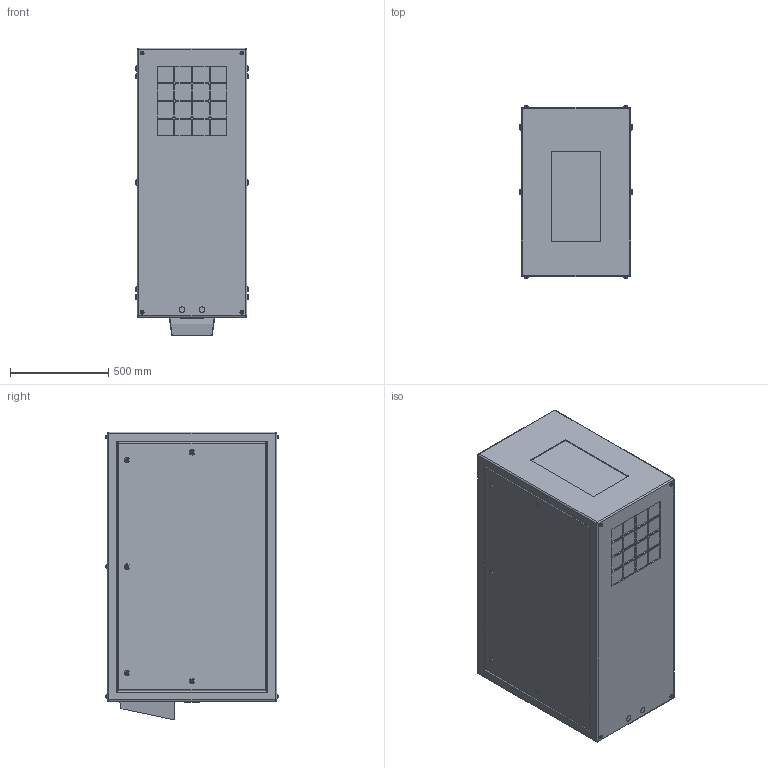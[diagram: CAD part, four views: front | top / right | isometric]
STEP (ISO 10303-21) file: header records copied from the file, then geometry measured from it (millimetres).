
FILE_DESCRIPTION (( 'STEP AP214' ), '1' );
FILE_NAME ('Cyclone 55.310.P R10.STEP', '2022-09-08T22:04:10', ( '' ), ( '' ), 'SwSTEP 2.0', 'SolidWorks 2020', '' );
FILE_SCHEMA (( 'AUTOMOTIVE_DESIGN' ));
Length unit declared in the file: inch
Products named in the file (1): Cyclone 55.310.P R10
Bounding box: 571.5 x 878.2 x 1466.85 mm (x, y, z)
Volume: 660467605 mm3; surface area: 5387787.5 mm2
Topology: 1 solids, 7 shells, 576 faces, 1344 edges, 860 vertices
Faces by surface type: plane 272, cylinder 244, torus 52, sphere 8
Entity records: 21455 total; most frequent: CARTESIAN_POINT 3317, DIRECTION 2934, ORIENTED_EDGE 2672, EDGE_CURVE 1336, AXIS2_PLACEMENT_3D 1117, VERTEX_POINT 860, LINE 700, VECTOR 700
